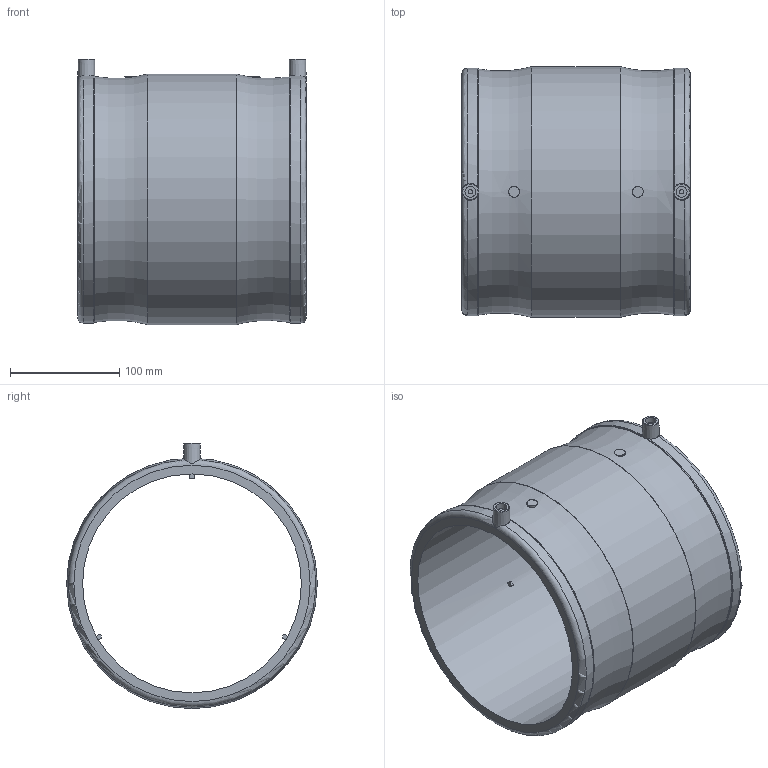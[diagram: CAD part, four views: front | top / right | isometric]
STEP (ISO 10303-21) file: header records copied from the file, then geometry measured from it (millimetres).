
FILE_DESCRIPTION(/* description */ ('Unknown'),/* implementation_level */ '2;1');
FILE_NAME(/* name */ 'MP200A',/* time_stamp */ '2021-05-06T08:33:30+02:00',/* author */ ('Unknown'),/* organization */ ('Unknown'),/* preprocessor_version */ 'ST-DEVELOPER v16.7',/* originating_system */ 'Solid Edge',/* authorisation */ 'Unknown');
FILE_SCHEMA (('AUTOMOTIVE_DESIGN {1 0 10303 214 3 1 1}'));
Length unit declared in the file: millimetre
Products named in the file (1): MP200A
Bounding box: 209 x 229 x 242.5 mm (x, y, z)
Volume: 1808119.9 mm3; surface area: 297754.8 mm2
Topology: 1 solids, 1 shells, 55 faces, 140 edges, 93 vertices
Faces by surface type: plane 25, cylinder 16, torus 12, cone 2
Full cylindrical faces by diameter (mm): 4 x2, 10 x4, 200 x1, 229 x1
Entity records: 1547 total; most frequent: CARTESIAN_POINT 357, DIRECTION 244, ORIENTED_EDGE 208, EDGE_CURVE 104, AXIS2_PLACEMENT_3D 104, EDGE_LOOP 84, FACE_BOUND 84, VERTEX_POINT 78
